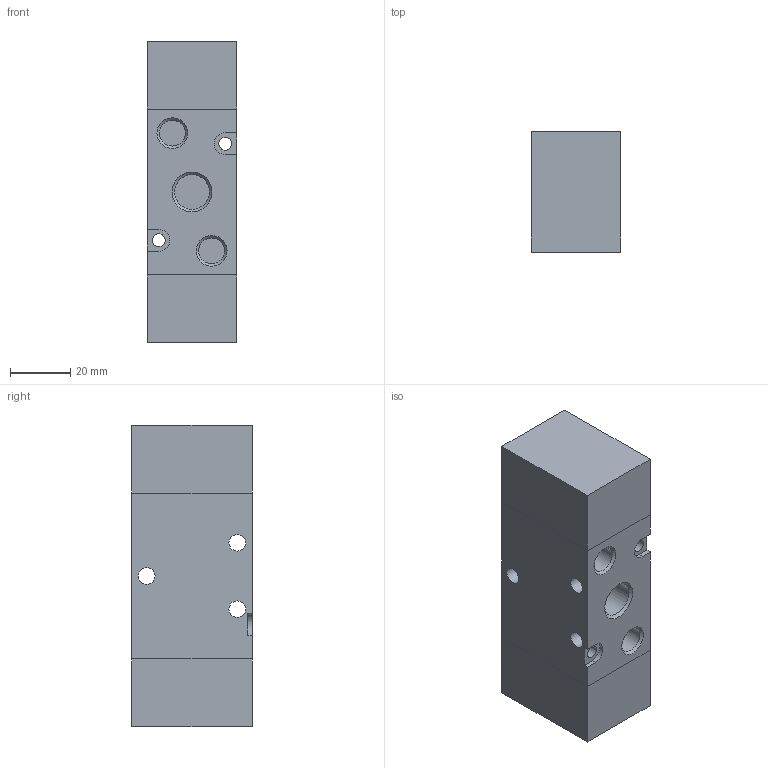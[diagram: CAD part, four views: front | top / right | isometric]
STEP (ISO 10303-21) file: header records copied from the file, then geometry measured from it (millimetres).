
FILE_DESCRIPTION((''),'2;1');
FILE_NAME('I:\Area Tecnica\Disegni\VARIE-3D\Componenti\T200\T224\T224_32_11_1.stp','2009-07-01T08:35:35',('rivolro1'),(''),'Autodesk Inventor 2010','Autodesk Inventor 2010','');
FILE_SCHEMA(('AUTOMOTIVE_DESIGN { 1 0 10303 214 1 1 1 1 }'));
Length unit declared in the file: millimetre
Products named in the file (1): T224_32_11_1
Bounding box: 29.5 x 40 x 100 mm (x, y, z)
Volume: 110842.1 mm3; surface area: 24724.3 mm2
Topology: 3 solids, 3 shells, 46 faces, 100 edges, 65 vertices
Faces by surface type: plane 24, bspline 15, cylinder 7
Full cylindrical faces by diameter (mm): 4.25 x2, 5.5 x3
Entity records: 1380 total; most frequent: CARTESIAN_POINT 382, DIRECTION 178, ORIENTED_EDGE 170, EDGE_CURVE 85, EDGE_LOOP 76, VERTEX_POINT 65, AXIS2_PLACEMENT_3D 61, VECTOR 56
